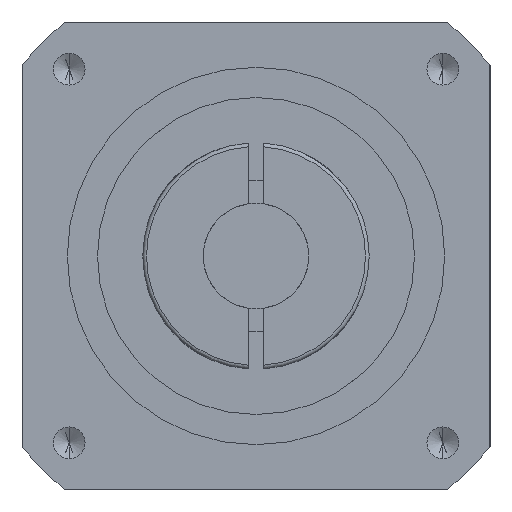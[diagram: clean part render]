
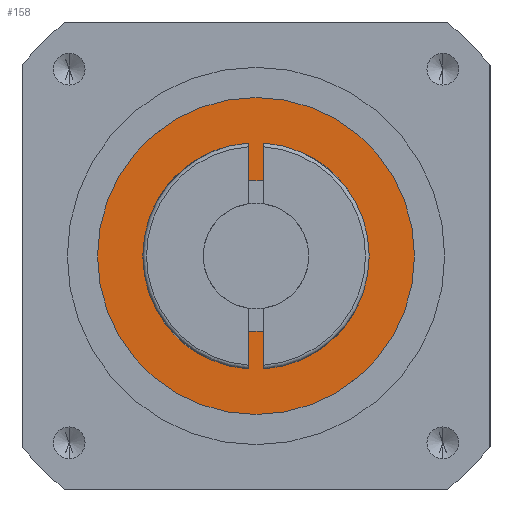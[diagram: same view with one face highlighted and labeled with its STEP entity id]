
A CAD part, front view. The second image highlights one B-rep face of the part: STEP entity #158.
In plain terms, the highlighted planar face has unit normal (0, -1, 0).
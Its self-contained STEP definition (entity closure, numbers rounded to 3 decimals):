
#158 = ADVANCED_FACE ( 'NONE', ( #2910, #2913 ), #1334, .T. ) ;
#441 = AXIS2_PLACEMENT_3D ( 'NONE', #1326, #1336, #1337 ) ;
#564 = AXIS2_PLACEMENT_3D ( 'NONE', #5151, #5152, #5153 ) ;
#568 = AXIS2_PLACEMENT_3D ( 'NONE', #5254, #5255, #5256 ) ;
#576 = AXIS2_PLACEMENT_3D ( 'NONE', #5378, #5379, #5380 ) ;
#577 = AXIS2_PLACEMENT_3D ( 'NONE', #5383, #5384, #5385 ) ;
#761 = CIRCLE ( 'NONE', #564, 10. ) ;
#780 = CIRCLE ( 'NONE', #568, 21. ) ;
#801 = CIRCLE ( 'NONE', #576, 21. ) ;
#810 = CIRCLE ( 'NONE', #577, 10. ) ;
#908 = CARTESIAN_POINT ( 'NONE',  ( 0., -34., 10. ) ) ;
#1144 = EDGE_LOOP ( 'NONE', ( #2632, #2633 ) ) ;
#1326 = CARTESIAN_POINT ( 'NONE',  ( 0., -34., 0. ) ) ;
#1334 = PLANE ( 'NONE',  #441 ) ;
#1336 = DIRECTION ( 'NONE',  ( 0., -1., 0. ) ) ;
#1337 = DIRECTION ( 'NONE',  ( 0., 0., -1. ) ) ;
#1752 = VERTEX_POINT ( 'NONE', #908 ) ;
#1767 = VERTEX_POINT ( 'NONE', #3980 ) ;
#1770 = VERTEX_POINT ( 'NONE', #3983 ) ;
#1774 = VERTEX_POINT ( 'NONE', #3987 ) ;
#2632 = ORIENTED_EDGE ( 'NONE', *, *, #4508, .T. ) ;
#2633 = ORIENTED_EDGE ( 'NONE', *, *, #4483, .T. ) ;
#2634 = ORIENTED_EDGE ( 'NONE', *, *, #4472, .T. ) ;
#2635 = ORIENTED_EDGE ( 'NONE', *, *, #4509, .T. ) ;
#2910 = FACE_OUTER_BOUND ( 'NONE', #1144, .T. ) ;
#2913 = FACE_BOUND ( 'NONE', #4816, .T. ) ;
#3980 = CARTESIAN_POINT ( 'NONE',  ( 0., -34., 21. ) ) ;
#3983 = CARTESIAN_POINT ( 'NONE',  ( 0., -34., -21. ) ) ;
#3987 = CARTESIAN_POINT ( 'NONE',  ( 0., -34., -10. ) ) ;
#4472 = EDGE_CURVE ( 'NONE', #1752, #1774, #761, .T. ) ;
#4483 = EDGE_CURVE ( 'NONE', #1767, #1770, #780, .T. ) ;
#4508 = EDGE_CURVE ( 'NONE', #1770, #1767, #801, .T. ) ;
#4509 = EDGE_CURVE ( 'NONE', #1774, #1752, #810, .T. ) ;
#4816 = EDGE_LOOP ( 'NONE', ( #2634, #2635 ) ) ;
#5151 = CARTESIAN_POINT ( 'NONE',  ( 0., -34., 0. ) ) ;
#5152 = DIRECTION ( 'NONE',  ( 0., 1., 0. ) ) ;
#5153 = DIRECTION ( 'NONE',  ( 0., 0., 1. ) ) ;
#5254 = CARTESIAN_POINT ( 'NONE',  ( 0., -34., 0. ) ) ;
#5255 = DIRECTION ( 'NONE',  ( 0., -1., 0. ) ) ;
#5256 = DIRECTION ( 'NONE',  ( 0., 0., -1. ) ) ;
#5378 = CARTESIAN_POINT ( 'NONE',  ( 0., -34., 0. ) ) ;
#5379 = DIRECTION ( 'NONE',  ( 0., -1., 0. ) ) ;
#5380 = DIRECTION ( 'NONE',  ( 0., 0., -1. ) ) ;
#5383 = CARTESIAN_POINT ( 'NONE',  ( 0., -34., 0. ) ) ;
#5384 = DIRECTION ( 'NONE',  ( 0., 1., 0. ) ) ;
#5385 = DIRECTION ( 'NONE',  ( 0., 0., 1. ) ) ;
